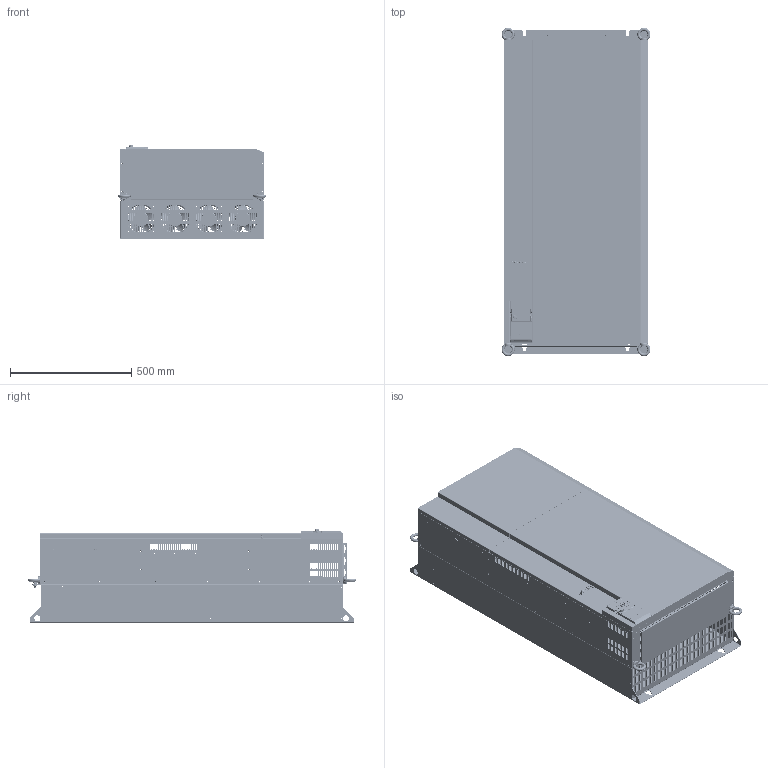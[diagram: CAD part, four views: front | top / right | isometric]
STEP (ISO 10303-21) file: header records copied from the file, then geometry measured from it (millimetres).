
FILE_DESCRIPTION((''),'2;1');
FILE_NAME('VFC5610-250K-3P4-MNA-7P-NNNNN-N','2023-03-27T15:45:21',('ZUX1XI'),(''),'CREO PARAMETRIC BY PTC INC, 2021072','CREO PARAMETRIC BY PTC INC, 2021072','');
FILE_SCHEMA(('AUTOMOTIVE_DESIGN { 1 0 10303 214 1 1 1 1 }'));
Products named in the file (151): SE5M_BASE_P1_A_3_1_1_1_1_1; SE5M_BASE_P1_A_3_18_1_1_1_1; SE5M_BASE_P1_A_3_19_1_1_1_1; SE5M_BASE_P1_A_3_24_1_1_1_1; SE5M_BASE_P1_A_3_25_1_1_1_1; SE5M_BASE_P1_A_3_1_1_1_1; SE5M_BASE_P3_A_3_1_1_1_1; SE5M_BASE_FAN_A_3_1_1_1_1_1; SE5M_BASE_FAN_A_3_2_1_1_1_1; SE5M_BASE_FAN_A_3_3_1_1_1_1; SE5M_BASE_FAN_A_3_4_1_1_1_1; SE5M_BASE_FAN_A_3_5_1_1_1_1; SE5M_BASE_FAN_A_3_6_1_1_1_1; SE5M_BASE_FAN_A_3_7_1_1_1_1; SE5M_BASE_FAN_A_3_8_1_1_1_1; SE5M_BASE_FAN_A_3_9_1_1_1_1; SE5M_BASE_FAN_A_3_10_1_1_1_1; SE5M_BASE_FAN_A_3_11_1_1_1_1; SE5M_BASE_FAN_A_3_12_1_1_1_1; SE5M_BASE_FAN_A_3_13_1_1_1_1; SE5M_BASE_FAN_A_3_14_1_1_1_1; SE5M_BASE_FAN_A_3_15_1_1_1_1; SE5M_BASE_FAN_A_3_16_1_1_1_1; SE5M_BASE_FAN_A_3_17_1_1_1_1; SE5M_BASE_FAN_A_3_1_1_1_1; SV5M_ZHONGCENG_A_5_1_1_1_1_1; SV5M_ZHONGCENG_A_5_8_1_1_1_1; SV5M_ZHONGCENG_A_5_14_1_1_1_1; SV5M_ZHONGCENG_A_5_15_1_1_1_1; SV5M_ZHONGCENG_A_5_16_1_1_1_1; SV5M_ZHONGCENG_A_5_20_1_1_1_1; SV5M_ZHONGCENG_A_5_51_1_1_1_1; SV5M_ZHONGCENG_A_5_1_1_1_1; SE5M_GND_A_3_1_1_1_1_1; SE5M_GND_A_3_2_1_1_1_1; SE5M_GND_A_3_3_1_1_1_1; SE5M_GND_A_3_4_1_1_1_1; SE5M_GND_A_3_5_1_1_1_1; SE5M_GND_A_3_6_1_1_1_1; SE5M_GND_A_3_7_1_1_1_1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
Assembly tree (180 placements, depth 10):
  VFC5610-250K-3P4-MNA-7P-NNNNN-N
    VFC5610-250K-3P4-MNA-7P-NNNNN_2
      VFC5610-250K-3P4-MNA-7P-NNNNN_1
        VFC5610-200K-3P4-MNA-LP-NNNNN-N
          00-XFCX610-200KW_1_1_1_1
            00-XFCX610-200KW_60_1_1_1_1
              SE5M_BASE_P1_A_3_1_1_1_1
                SE5M_BASE_P1_A_3_1_1_1_1_1
                SE5M_BASE_P1_A_3_18_1_1_1_1
                SE5M_BASE_P1_A_3_19_1_1_1_1
                SE5M_BASE_P1_A_3_24_1_1_1_1
                SE5M_BASE_P1_A_3_25_1_1_1_1
              SE5M_BASE_P3_A_3_1_1_1_1
              SE5M_BASE_FAN_A_3_1_1_1_1
                SE5M_BASE_FAN_A_3_1_1_1_1_1
                SE5M_BASE_FAN_A_3_2_1_1_1_1
                SE5M_BASE_FAN_A_3_3_1_1_1_1
                SE5M_BASE_FAN_A_3_4_1_1_1_1
                SE5M_BASE_FAN_A_3_5_1_1_1_1
                SE5M_BASE_FAN_A_3_6_1_1_1_1
                SE5M_BASE_FAN_A_3_7_1_1_1_1
                SE5M_BASE_FAN_A_3_8_1_1_1_1
                SE5M_BASE_FAN_A_3_9_1_1_1_1
                SE5M_BASE_FAN_A_3_10_1_1_1_1
                SE5M_BASE_FAN_A_3_11_1_1_1_1
                SE5M_BASE_FAN_A_3_12_1_1_1_1
                SE5M_BASE_FAN_A_3_13_1_1_1_1
                SE5M_BASE_FAN_A_3_14_1_1_1_1
                SE5M_BASE_FAN_A_3_15_1_1_1_1
                SE5M_BASE_FAN_A_3_16_1_1_1_1
                SE5M_BASE_FAN_A_3_17_1_1_1_1
              SV5M_ZHONGCENG_A_5_1_1_1_1
                SV5M_ZHONGCENG_A_5_1_1_1_1_1
                SV5M_ZHONGCENG_A_5_8_1_1_1_1
                SV5M_ZHONGCENG_A_5_14_1_1_1_1
                SV5M_ZHONGCENG_A_5_15_1_1_1_1
                SV5M_ZHONGCENG_A_5_16_1_1_1_1
                SV5M_ZHONGCENG_A_5_20_1_1_1_1
                SV5M_ZHONGCENG_A_5_51_1_1_1_1
              SE5M_GND_A_3_1_1_1_1
                SE5M_GND_A_3_1_1_1_1_1
                SE5M_GND_A_3_2_1_1_1_1
                SE5M_GND_A_3_3_1_1_1_1
                SE5M_GND_A_3_4_1_1_1_1
                SE5M_GND_A_3_5_1_1_1_1
                SE5M_GND_A_3_6_1_1_1_1
                SE5M_GND_A_3_7_1_1_1_1
                SE5M_GND_A_3_8_1_1_1_1
                SE5M_GND_A_3_9_1_1_1_1
                SE5M_GND_A_3_10_1_1_1_1
                SE5M_GND_A_3_11_1_1_1_1
                SE5M_GND_A_3_12_1_1_1_1
                SE5M_GND_A_3_13_1_1_1_1
                SE5M_GND_A_3_14_1_1_1_1
                SE5M_GND_A_3_15_1_1_1_1
                SE5M_GND_A_3_16_1_1_1_1
                SE5M_GND_A_3_17_1_1_1_1
              LDZHJ_SZCYZT_M5X14_3_1_1_1_1  x4
              BUS_BAR_CE5M_L1_A_2_1_1_1_1
              BUS_BAR_CE5M_L2_A_2_1_1_1_1
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Bounding box: 614 x 1354.5 x 385.55 mm (x, y, z)
Volume: 7126794.6 mm3; surface area: 7722975.4 mm2
Topology: 146 solids, 153 shells, 13494 faces, 37093 edges, 23927 vertices
Faces by surface type: plane 6922, cylinder 4492, bspline 790, torus 676, cone 350, sphere 157, extrusion 107
Entity records: 488715 total; most frequent: CARTESIAN_POINT 103760, ORIENTED_EDGE 58360, DIRECTION 57209, PRESENTATION_STYLE_ASSIGNMENT 30388, STYLED_ITEM 29282, CURVE_STYLE 29181, EDGE_CURVE 29181, AXIS2_PLACEMENT_3D 19314
